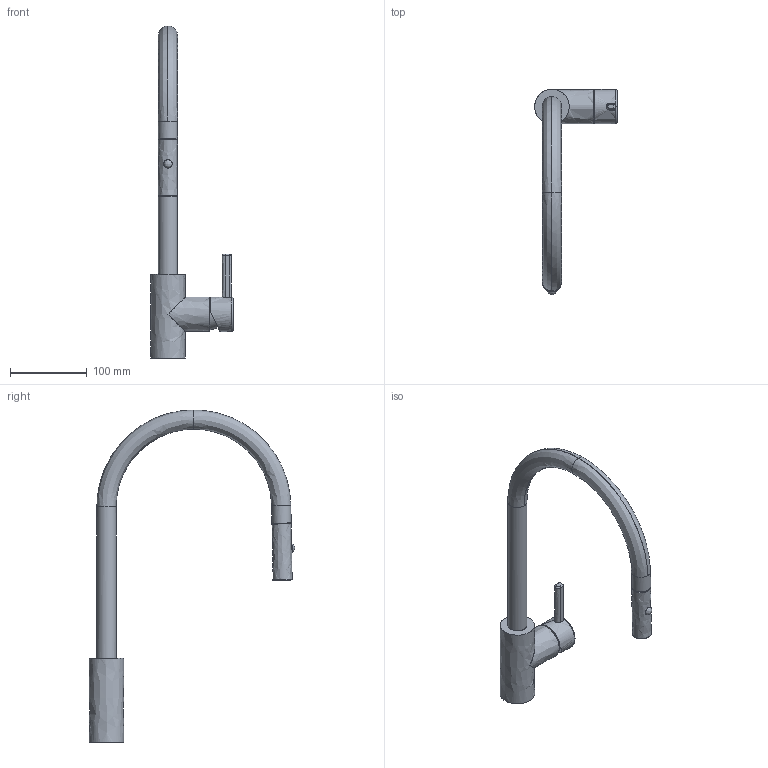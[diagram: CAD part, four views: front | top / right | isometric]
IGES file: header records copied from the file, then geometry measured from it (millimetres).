
Global section: file name: F:\_CONVERSIONE_CAD_2024_2025\03_3D kits new\08_Taps\Eos Neo\3D001_Taps_Eos-Neo_Pull-Down\3D001_Taps_Eos-Neo_Pull-Down.igs; native system: Rhinoceros ( Jan  9 2024 ); preprocessor: Trout Lake IGES 012 Jan  9 2024; date: 240130.131739; units: millimetre
Bounding box: 107.74 x 268.15 x 433 mm (x, y, z)
Surface area: 83345.1 mm2 (no closed solid volume)
Topology: 0 solids, 0 shells, 201 faces, 1116 edges, 1108 vertices
Faces by surface type: bspline 201
